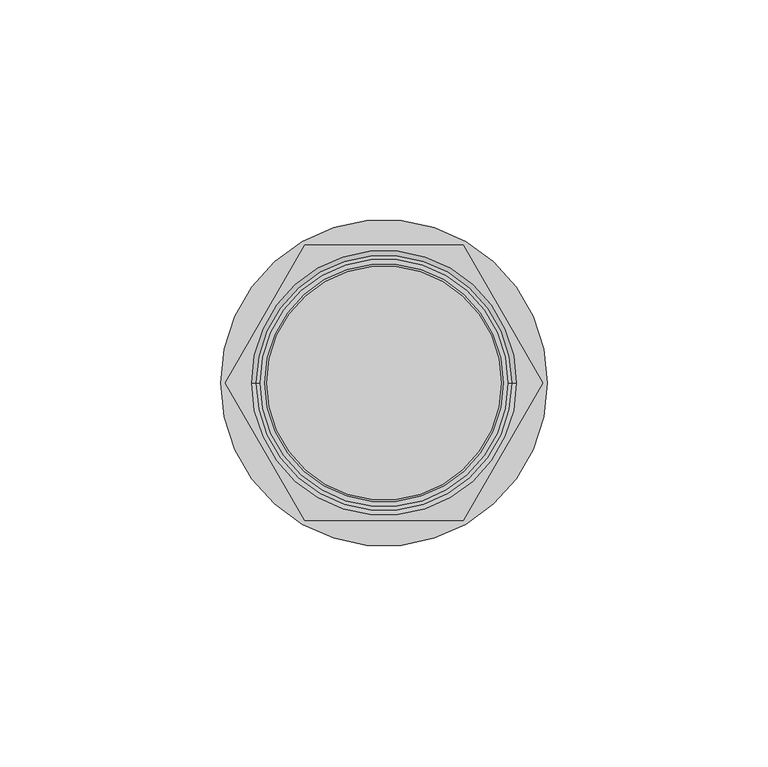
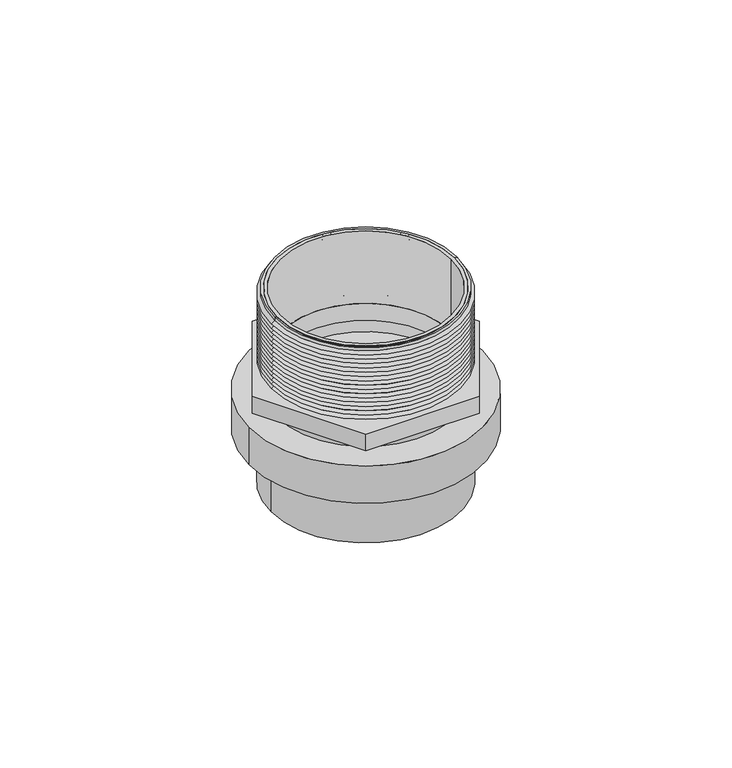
"""IFC4 building model written with IfcOpenShell, lengths in millimetres: valve geometry, Adaptador Macho con Ins Metalico_Lubrizol_CPVC_FlowGuard_MX 50mm : Adaptador Macho con Ins Metalico_Lubrizol_CPVC_FlowGuard_MX 50mm."""

import ifcopenshell
import ifcopenshell.guid

model = None  # the IFC model being written
_history = None  # IfcOwnerHistory: only IFC2X3 demands one
_inside = {}  # id of a spatial element -> (the spatial element, [elements in it])
_under = {}  # id of a project, library or spatial element -> (it, [spatial elements below it])
_declared = {}  # id of a project -> (the project, [libraries it declares])
_typed = {}  # id of a type object -> (the type object, [elements of that type])
_made_of = {}  # id of a material, layer set ... -> (it, [elements and type objects made of it])


def new_model(schema):
    """Start an empty IFC model of exactly this schema.

    Asked for "IFC4X3", IfcOpenShell would pick the latest addendum, in which some entities
    have other attributes; the version numbers below select the first issue.
    IFC2X3 requires an IfcOwnerHistory on every rooted entity: one is made here for all.
    """
    global model, _history
    if schema == "IFC4X3":
        model = ifcopenshell.file(schema_version=(4, 3, 0, 0))
    else:
        model = ifcopenshell.file(schema=schema)
    _inside.clear()
    _under.clear()
    _declared.clear()
    _typed.clear()
    _made_of.clear()
    _history = None
    if model.schema == "IFC2X3":
        org = make("IfcOrganization", Name="unknown")
        user = make(
            "IfcPersonAndOrganization",
            ThePerson=make("IfcPerson", FamilyName="unknown"),
            TheOrganization=org,
        )
        app = make(
            "IfcApplication",
            ApplicationDeveloper=org,
            Version="unknown",
            ApplicationFullName="unknown",
            ApplicationIdentifier="unknown",
        )
        _history = make(
            "IfcOwnerHistory",
            OwningUser=user,
            OwningApplication=app,
            ChangeAction="ADDED",
            CreationDate=0,
        )
    return model


def make(cls, **values):
    """One entity of the class cls with the attributes given. An attribute that is None is left unset."""
    return model.create_entity(
        cls, **{name: value for name, value in values.items() if value is not None}
    )


def rooted(cls, **values):
    """An entity with a GlobalId (a new one), such as an element, a storey or a relation."""
    return make(cls, GlobalId=ifcopenshell.guid.new(), OwnerHistory=_history, **values)


def si_unit(unit_type, name, prefix=None):
    """IfcSIUnit, for example si_unit("LENGTHUNIT", "METRE", prefix="MILLI")."""
    return make("IfcSIUnit", UnitType=unit_type, Prefix=prefix, Name=name)


def assignment(units):
    """IfcUnitAssignment: the units of a project."""
    return None if units is None else make("IfcUnitAssignment", Units=units)


def point(xyz):
    """IfcCartesianPoint."""
    return None if xyz is None else make("IfcCartesianPoint", Coordinates=xyz)


def direction(xyz):
    """IfcDirection."""
    return None if xyz is None else make("IfcDirection", DirectionRatios=xyz)


def frame(location, z_axis=None, x_axis=None):
    """IfcAxis2Placement3D, a coordinate frame: its origin and axes. An axis left out is left unset."""
    return make(
        "IfcAxis2Placement3D",
        Location=point(location),
        Axis=direction(z_axis),
        RefDirection=direction(x_axis),
    )


def frame_2d(location, x_axis=None):
    """IfcAxis2Placement2D, a coordinate frame in the plane: its origin and x axis."""
    return make(
        "IfcAxis2Placement2D", Location=point(location), RefDirection=direction(x_axis)
    )


def origin():
    """The frame at (0, 0, 0) with its axes left unset."""
    return frame((0.0, 0.0, 0.0))


def origin_with_axes():
    """The frame at (0, 0, 0) with the z axis (0, 0, 1) and the x axis (1, 0, 0) written out."""
    return frame((0.0, 0.0, 0.0), z_axis=(0.0, 0.0, 1.0), x_axis=(1.0, 0.0, 0.0))


def origin_2d():
    """The frame at (0, 0) in the plane with its x axis left unset."""
    return frame_2d((0.0, 0.0))


def place(relative_to, where):
    """IfcLocalPlacement: puts the frame where relative to a parent placement (None: the world)."""
    return make(
        "IfcLocalPlacement", PlacementRelTo=relative_to, RelativePlacement=where
    )


def context(
    kind, dimensions, precision=None, world=None, true_north=None, identifier=None
):
    """IfcGeometricRepresentationContext, for example the 3D "Model" context."""
    return make(
        "IfcGeometricRepresentationContext",
        ContextIdentifier=identifier,
        ContextType=kind,
        CoordinateSpaceDimension=dimensions,
        Precision=precision,
        WorldCoordinateSystem=world,
        TrueNorth=true_north,
    )


def project(units=None, contexts=None):
    """IfcProject with its units and contexts."""
    return rooted(
        "IfcProject",
        Name="project",
        RepresentationContexts=contexts,
        UnitsInContext=assignment(units),
    )


def spatial(cls, under=None, at=None, **own):
    """A site, building, storey or space (cls), placed at a placement, below another one or the project."""
    s = rooted(cls, ObjectPlacement=at, **own)
    if under is not None:
        _under.setdefault(under.id(), (under, []))[1].append(s)
    return s


def polyline(points):
    """IfcPolyline through the points."""
    return make("IfcPolyline", Points=[point(p) for p in points])


def circle_curve(where, radius):
    """IfcCircle in the frame where."""
    return make("IfcCircle", Position=where, Radius=radius)


def trimmed(basis, trim1, trim2, sense, master):
    """IfcTrimmedCurve: the piece of a basis curve between two trims."""
    return make(
        "IfcTrimmedCurve",
        BasisCurve=basis,
        Trim1=trim1,
        Trim2=trim2,
        SenseAgreement=sense,
        MasterRepresentation=master,
    )


def segment(curve, same_sense, transition):
    """IfcCompositeCurveSegment."""
    return make(
        "IfcCompositeCurveSegment",
        Transition=transition,
        SameSense=same_sense,
        ParentCurve=curve,
    )


def composite_curve(segments, self_intersect=None):
    """IfcCompositeCurve: segments joined end to end."""
    return make("IfcCompositeCurve", Segments=segments, SelfIntersect=self_intersect)


def outline(outer, holes=None, kind="AREA"):
    """IfcArbitraryClosedProfileDef: a profile drawn as a closed curve; with holes, ...WithVoids."""
    if holes is None:
        return make("IfcArbitraryClosedProfileDef", ProfileType=kind, OuterCurve=outer)
    return make(
        "IfcArbitraryProfileDefWithVoids",
        ProfileType=kind,
        OuterCurve=outer,
        InnerCurves=holes,
    )


def extrude(swept, where, along, depth):
    """IfcExtrudedAreaSolid: the profile swept, set in the frame where, extruded along a direction by depth."""
    return make(
        "IfcExtrudedAreaSolid",
        SweptArea=swept,
        Position=where,
        ExtrudedDirection=direction(along),
        Depth=depth,
    )


def shape(context_of_items, identifier, shape_type, items):
    """IfcShapeRepresentation: the items that make up one representation, for example the "Body"."""
    return make(
        "IfcShapeRepresentation",
        ContextOfItems=context_of_items,
        RepresentationIdentifier=identifier,
        RepresentationType=shape_type,
        Items=items,
    )


def source(mapping_origin, context_of_items, identifier, shape_type, items):
    """IfcRepresentationMap: a shape defined once, which mapped items show again and again."""
    return make(
        "IfcRepresentationMap",
        MappingOrigin=mapping_origin,
        MappedRepresentation=shape(context_of_items, identifier, shape_type, items),
    )


def transform(
    local_origin,
    x_axis=None,
    y_axis=None,
    z_axis=None,
    scale=None,
    scale2=None,
    scale3=None,
    uniform=True,
):
    """IfcCartesianTransformationOperator3D, or its non-uniform kind. x_axis, y_axis, z_axis: its Axis1, 2, 3."""
    if uniform:
        return make(
            "IfcCartesianTransformationOperator3D",
            Axis1=direction(x_axis),
            Axis2=direction(y_axis),
            LocalOrigin=point(local_origin),
            Scale=scale,
            Axis3=direction(z_axis),
        )
    return make(
        "IfcCartesianTransformationOperator3DnonUniform",
        Axis1=direction(x_axis),
        Axis2=direction(y_axis),
        LocalOrigin=point(local_origin),
        Scale=scale,
        Axis3=direction(z_axis),
        Scale2=scale2,
        Scale3=scale3,
    )


def mapped(mapping_source, mapping_target):
    """IfcMappedItem: shows the shape of a source again, moved by a transform."""
    return make(
        "IfcMappedItem", MappingSource=mapping_source, MappingTarget=mapping_target
    )


def made_of(thing, what):
    """Note that an element or type object is made of a material, layer set ...; save() writes the relation."""
    if what is not None:
        _made_of.setdefault(what.id(), (what, []))[1].append(thing)
    return thing


def element(
    cls,
    number,
    at=None,
    inside=None,
    cuts=None,
    type_object=None,
    material=None,
    context=None,
    identifier="Body",
    shape_type=None,
    held_by="IfcProductDefinitionShape",
    body=None,
    shapes=None,
    **own,
):
    """One element of the class cls, such as IfcWall. Its Tag is "e" and its number.

    at: its placement. inside: the storey or other place that contains it. cuts: it is an
    opening in that element (IfcRelVoidsElement). A single representation is given by context,
    identifier, shape_type and body (its items); several are given by shapes. held_by: the class
    of the entity that holds the representations. save() writes the other relations.
    """
    e = rooted(cls, Tag="e%d" % number, ObjectPlacement=at, **own)
    if body is not None:
        shapes = [shape(context, identifier, shape_type, body)]
    if shapes is not None:
        e.Representation = make(held_by, Representations=shapes)
    if inside is not None:
        _inside.setdefault(inside.id(), (inside, []))[1].append(e)
    if cuts is not None:
        rooted(
            "IfcRelVoidsElement", RelatingBuildingElement=cuts, RelatedOpeningElement=e
        )
    if type_object is not None:
        _typed.setdefault(type_object.id(), (type_object, []))[1].append(e)
    return made_of(e, material)


def aggregate(whole, parts):
    """IfcRelAggregates: a whole, such as a stair, and the parts it consists of."""
    return rooted("IfcRelAggregates", RelatingObject=whole, RelatedObjects=parts)


def save(model, path):
    """Write the relations noted so far, then the file.

    IfcRelAggregates (storeys below a building ...), IfcRelContainedInSpatialStructure (elements
    in a storey), IfcRelDefinesByType, IfcRelAssociatesMaterial and IfcRelDeclares: one each for
    every whole, place, type object, material and project.
    """
    for whole, parts in _under.values():
        aggregate(whole, parts)
    for where, things in _inside.values():
        rooted(
            "IfcRelContainedInSpatialStructure",
            RelatedElements=things,
            RelatingStructure=where,
        )
    for kind, things in _typed.values():
        rooted("IfcRelDefinesByType", RelatedObjects=things, RelatingType=kind)
    for what, things in _made_of.values():
        rooted("IfcRelAssociatesMaterial", RelatedObjects=things, RelatingMaterial=what)
    for by, libraries in _declared.values():
        rooted("IfcRelDeclares", RelatingContext=by, RelatedDefinitions=libraries)
    model.write(path)


def plane_surface(at):
    """IfcPlane: the flat surface through the origin of the frame at, square to its z axis."""
    return make("IfcPlane", Position=at)


def cylinder_surface(at, radius):
    """IfcCylindricalSurface: all points at the distance radius from the z axis of the frame at."""
    return make("IfcCylindricalSurface", Position=at, Radius=radius)


def revolved_surface(curve, axis_point, axis_direction):
    """IfcSurfaceOfRevolution: the curve turned about the line through axis_point along axis_direction."""
    return make(
        "IfcSurfaceOfRevolution",
        SweptCurve=make("IfcArbitraryOpenProfileDef", ProfileType="CURVE", Curve=curve),
        AxisPosition=make("IfcAxis1Placement", Location=point(axis_point), Axis=direction(axis_direction)),
    )


def advanced_brep(points, edges, surfaces, faces):
    """IfcAdvancedBrep: a solid bounded by faces that lie on surfaces and meet in shared edges.

    An edge is (start, end): straight between two places in points (the first is 0);
    or (start, end, curve); or (start, end, curve, False) where it runs against its curve.
    A face is (place in surfaces, loops), or (place, loops, False) where it looks against
    its surface's normal. A loop lists edges by number (the first is 1), with a minus sign
    where the edge is run from its end to its start. The first loop is the outer one.
    """
    corners = [point(p) for p in points]
    vertices = [make("IfcVertexPoint", VertexGeometry=c) for c in corners]
    made = []
    for start, end, *more in edges:
        made.append(
            make(
                "IfcEdgeCurve",
                EdgeStart=vertices[start],
                EdgeEnd=vertices[end],
                EdgeGeometry=more[0] if more else make("IfcPolyline", Points=[corners[start], corners[end]]),
                SameSense=more[1] if len(more) > 1 else True,
            )
        )
    hull = []
    for where, loops, *sense in faces:
        bounds = []
        for j, loop in enumerate(loops):
            ring = [make("IfcOrientedEdge", EdgeElement=made[abs(k) - 1], Orientation=k > 0) for k in loop]
            bounds.append(
                make(
                    "IfcFaceOuterBound" if j == 0 else "IfcFaceBound",
                    Bound=make("IfcEdgeLoop", EdgeList=ring),
                    Orientation=True,
                )
            )
        hull.append(make("IfcAdvancedFace", Bounds=bounds, FaceSurface=surfaces[where], SameSense=sense[0] if sense else True))
    return make("IfcAdvancedBrep", Outer=make("IfcClosedShell", CfsFaces=hull))


def valve_88e978f3(model_context):
    return source(origin(), model_context, "Body", "SolidModel", [
        extrude(outline(composite_curve([segment(trimmed(circle_curve(origin_2d(), 37.0), [point((-37.0, 0.0))], [point((37.0, 0.0))], False, "CARTESIAN"), True, "CONTINUOUS"), segment(trimmed(circle_curve(origin_2d(), 37.0), [point((37.0, 0.0))], [point((-37.0, 0.0))], False, "CARTESIAN"), True, "CONTINUOUS")], self_intersect=False)), frame((0.0, 0.0, 18.1813089), z_axis=(0.0, 0.0, 1.0), x_axis=(1.0, 0.0, 0.0)), (0.0, 0.0, 1.0), 12.5011518),
        extrude(outline(composite_curve([segment(trimmed(circle_curve(origin_2d(), 28.0854831), [point((-28.0854831, 0.0))], [point((28.0854831, 0.0))], False, "CARTESIAN"), True, "CONTINUOUS"), segment(trimmed(circle_curve(origin_2d(), 28.0854831), [point((28.0854831, 0.0))], [point((-28.0854831, 0.0))], False, "CARTESIAN"), True, "CONTINUOUS")], self_intersect=False), holes=[composite_curve([segment(trimmed(circle_curve(origin_2d(), 27.0), [point((-27.0, 0.0))], [point((27.0, 0.0))], True, "CARTESIAN"), True, "CONTINUOUS"), segment(trimmed(circle_curve(origin_2d(), 27.0), [point((27.0, 0.0))], [point((-27.0, 0.0))], True, "CARTESIAN"), True, "CONTINUOUS")], self_intersect=False)]), frame((0.0, 0.0, 30.6824606), z_axis=(0.0, 0.0, 1.0), x_axis=(1.0, 0.0, 0.0)), (0.0, 0.0, 1.0), 34.0473381),
        extrude(outline(polyline([(-18.0055192, -31.1864741), (-36.0110385, 0.0), (-18.0055192, 31.1864741), (18.0055192, 31.1864741), (36.0110385, 0.0), (18.0055192, -31.1864741), (-18.0055192, -31.1864741)]), holes=[composite_curve([segment(trimmed(circle_curve(origin_2d(), 26.5398145), [point((-26.5398145, 0.0))], [point((26.5398145, 0.0))], True, "CARTESIAN"), True, "CONTINUOUS"), segment(trimmed(circle_curve(origin_2d(), 26.5398145), [point((26.5398145, 0.0))], [point((-26.5398145, 0.0))], True, "CARTESIAN"), True, "CONTINUOUS")], self_intersect=False)]), frame((0.0, 0.0, 35.1069028), z_axis=(0.0, 0.0, 1.0), x_axis=(1.0, 0.0, 0.0)), (0.0, 0.0, 1.0), 5.6405916),
        advanced_brep(
        [(28.9362873, 0.0, 63.7387271), (-28.9362873, 0.0, 63.7387271), (-28.9362873, 0.0, 64.7297988), (28.9362873, 0.0, 64.7297988), (30.0, 0.0, 62.9939075), (-30.0, 0.0, 62.9939075), (28.9657757, 0.0, 62.2697359), (-28.9657757, 0.0, 62.2697359), (30.0, 0.0, 61.5455643), (-30.0, 0.0, 61.5455643), (28.9657757, 0.0, 60.8213926), (-28.9657757, 0.0, 60.8213926), (30.0, 0.0, 60.097221), (-30.0, 0.0, 60.097221), (28.9657757, 0.0, 59.3730494), (-28.9657757, 0.0, 59.3730494), (30.0, 0.0, 58.6488778), (-30.0, 0.0, 58.6488778), (28.9657757, 0.0, 57.9247062), (-28.9657757, 0.0, 57.9247062), (30.0, 0.0, 57.2005345), (-30.0, 0.0, 57.2005345), (28.9657757, 0.0, 56.4763629), (-28.9657757, 0.0, 56.4763629), (30.0, 0.0, 55.7521913), (-30.0, 0.0, 55.7521913), (28.9657757, 0.0, 55.0280197), (-28.9657757, 0.0, 55.0280197), (30.0, 0.0, 54.303848), (-30.0, 0.0, 54.303848), (28.9657757, 0.0, 53.5796764), (-28.9657757, 0.0, 53.5796764), (30.0, 0.0, 52.8555048), (-30.0, 0.0, 52.8555048), (28.9657757, 0.0, 52.1313332), (-28.9657757, 0.0, 52.1313332), (30.0, 0.0, 51.4071616), (-30.0, 0.0, 51.4071616), (28.9992007, 0.0, 50.7063943), (-28.9992007, 0.0, 50.7063943), (30.0, 0.0, 50.0056271), (-30.0, 0.0, 50.0056271), (28.9992007, 0.0, 49.3048599), (-28.9992007, 0.0, 49.3048599), (30.0, 0.0, 48.6040927), (-30.0, 0.0, 48.6040927), (28.9323508, 0.0, 47.8565167), (-28.9323508, 0.0, 47.8565167), (30.0, 0.0, 47.1089406), (-30.0, 0.0, 47.1089406), (28.9992007, 0.0, 46.4081734), (-28.9992007, 0.0, 46.4081734), (30.0, 0.0, 45.7074062), (-30.0, 0.0, 45.7074062), (28.9992007, 0.0, 45.006639), (-28.9992007, 0.0, 45.006639), (30.0, 0.0, 44.3058718), (-30.0, 0.0, 44.3058718), (28.9323508, 0.0, 43.5582958), (-28.9323508, 0.0, 43.5582958), (30.0, 0.0, 42.8107197), (-30.0, 0.0, 42.8107197), (28.9992007, 0.0, 42.1099525), (-28.9992007, 0.0, 42.1099525), (30.0, 0.0, 41.4091853), (-30.0, 0.0, 41.4091853), (29.0550075, 0.0, 40.7474945), (-29.0550075, 0.0, 40.7474945), (28.0854831, 0.0, 40.7474945), (-28.0854831, 0.0, 40.7474945), (28.0854831, 0.0, 64.7297988), (-28.0854831, 0.0, 64.7297988)],
        [
            (0, 1, circle_curve(frame((0.0, 0.0, 63.7387271), z_axis=(0.0, 0.0, 1.0), x_axis=(-1.0, 0.0, 0.0)), 28.9362873)),
            (1, 2),
            (2, 3, circle_curve(frame((0.0, 0.0, 64.7297988), z_axis=(0.0, 0.0, -1.0), x_axis=(-1.0, 0.0, 0.0)), 28.9362873)),
            (3, 0),
            (1, 0, circle_curve(frame((0.0, 0.0, 63.7387271), z_axis=(0.0, 0.0, 1.0), x_axis=(-1.0, 0.0, 0.0)), 28.9362873)),
            (3, 2, circle_curve(frame((0.0, 0.0, 64.7297988), z_axis=(0.0, 0.0, -1.0), x_axis=(-1.0, 0.0, 0.0)), 28.9362873)),
            (4, 5, circle_curve(frame((0.0, 0.0, 62.9939075), z_axis=(0.0, 0.0, 1.0), x_axis=(-1.0, 0.0, 0.0)), 30.0)),
            (5, 1),
            (0, 4),
            (5, 4, circle_curve(frame((0.0, 0.0, 62.9939075), z_axis=(0.0, 0.0, 1.0), x_axis=(-1.0, 0.0, 0.0)), 30.0)),
            (6, 7, circle_curve(frame((0.0, 0.0, 62.2697359), z_axis=(0.0, 0.0, 1.0), x_axis=(-1.0, 0.0, 0.0)), 28.9657757)),
            (7, 5),
            (4, 6),
            (7, 6, circle_curve(frame((0.0, 0.0, 62.2697359), z_axis=(0.0, 0.0, 1.0), x_axis=(-1.0, 0.0, 0.0)), 28.9657757)),
            (8, 9, circle_curve(frame((0.0, 0.0, 61.5455643), z_axis=(0.0, 0.0, 1.0), x_axis=(-1.0, 0.0, 0.0)), 30.0)),
            (9, 7),
            (6, 8),
            (9, 8, circle_curve(frame((0.0, 0.0, 61.5455643), z_axis=(0.0, 0.0, 1.0), x_axis=(-1.0, 0.0, 0.0)), 30.0)),
            (10, 11, circle_curve(frame((0.0, 0.0, 60.8213926), z_axis=(0.0, 0.0, 1.0), x_axis=(-1.0, 0.0, 0.0)), 28.9657757)),
            (11, 9),
            (8, 10),
            (11, 10, circle_curve(frame((0.0, 0.0, 60.8213926), z_axis=(0.0, 0.0, 1.0), x_axis=(-1.0, 0.0, 0.0)), 28.9657757)),
            (12, 13, circle_curve(frame((0.0, 0.0, 60.097221), z_axis=(0.0, 0.0, 1.0), x_axis=(-1.0, 0.0, 0.0)), 30.0)),
            (13, 11),
            (10, 12),
            (13, 12, circle_curve(frame((0.0, 0.0, 60.097221), z_axis=(0.0, 0.0, 1.0), x_axis=(-1.0, 0.0, 0.0)), 30.0)),
            (14, 15, circle_curve(frame((0.0, 0.0, 59.3730494), z_axis=(0.0, 0.0, 1.0), x_axis=(-1.0, 0.0, 0.0)), 28.9657757)),
            (15, 13),
            (12, 14),
            (15, 14, circle_curve(frame((0.0, 0.0, 59.3730494), z_axis=(0.0, 0.0, 1.0), x_axis=(-1.0, 0.0, 0.0)), 28.9657757)),
            (16, 17, circle_curve(frame((0.0, 0.0, 58.6488778), z_axis=(0.0, 0.0, 1.0), x_axis=(-1.0, 0.0, 0.0)), 30.0)),
            (17, 15),
            (14, 16),
            (17, 16, circle_curve(frame((0.0, 0.0, 58.6488778), z_axis=(0.0, 0.0, 1.0), x_axis=(-1.0, 0.0, 0.0)), 30.0)),
            (18, 19, circle_curve(frame((0.0, 0.0, 57.9247062), z_axis=(0.0, 0.0, 1.0), x_axis=(-1.0, 0.0, 0.0)), 28.9657757)),
            (19, 17),
            (16, 18),
            (19, 18, circle_curve(frame((0.0, 0.0, 57.9247062), z_axis=(0.0, 0.0, 1.0), x_axis=(-1.0, 0.0, 0.0)), 28.9657757)),
            (20, 21, circle_curve(frame((0.0, 0.0, 57.2005345), z_axis=(0.0, 0.0, 1.0), x_axis=(-1.0, 0.0, 0.0)), 30.0)),
            (21, 19),
            (18, 20),
            (21, 20, circle_curve(frame((0.0, 0.0, 57.2005345), z_axis=(0.0, 0.0, 1.0), x_axis=(-1.0, 0.0, 0.0)), 30.0)),
            (22, 23, circle_curve(frame((0.0, 0.0, 56.4763629), z_axis=(0.0, 0.0, 1.0), x_axis=(-1.0, 0.0, 0.0)), 28.9657757)),
            (23, 21),
            (20, 22),
            (23, 22, circle_curve(frame((0.0, 0.0, 56.4763629), z_axis=(0.0, 0.0, 1.0), x_axis=(-1.0, 0.0, 0.0)), 28.9657757)),
            (24, 25, circle_curve(frame((0.0, 0.0, 55.7521913), z_axis=(0.0, 0.0, 1.0), x_axis=(-1.0, 0.0, 0.0)), 30.0)),
            (25, 23),
            (22, 24),
            (25, 24, circle_curve(frame((0.0, 0.0, 55.7521913), z_axis=(0.0, 0.0, 1.0), x_axis=(-1.0, 0.0, 0.0)), 30.0)),
            (26, 27, circle_curve(frame((0.0, 0.0, 55.0280197), z_axis=(0.0, 0.0, 1.0), x_axis=(-1.0, 0.0, 0.0)), 28.9657757)),
            (27, 25),
            (24, 26),
            (27, 26, circle_curve(frame((0.0, 0.0, 55.0280197), z_axis=(0.0, 0.0, 1.0), x_axis=(-1.0, 0.0, 0.0)), 28.9657757)),
            (28, 29, circle_curve(frame((0.0, 0.0, 54.303848), z_axis=(0.0, 0.0, 1.0), x_axis=(-1.0, 0.0, 0.0)), 30.0)),
            (29, 27),
            (26, 28),
            (29, 28, circle_curve(frame((0.0, 0.0, 54.303848), z_axis=(0.0, 0.0, 1.0), x_axis=(-1.0, 0.0, 0.0)), 30.0)),
            (30, 31, circle_curve(frame((0.0, 0.0, 53.5796764), z_axis=(0.0, 0.0, 1.0), x_axis=(-1.0, 0.0, 0.0)), 28.9657757)),
            (31, 29),
            (28, 30),
            (31, 30, circle_curve(frame((0.0, 0.0, 53.5796764), z_axis=(0.0, 0.0, 1.0), x_axis=(-1.0, 0.0, 0.0)), 28.9657757)),
            (32, 33, circle_curve(frame((0.0, 0.0, 52.8555048), z_axis=(0.0, 0.0, 1.0), x_axis=(-1.0, 0.0, 0.0)), 30.0)),
            (33, 31),
            (30, 32),
            (33, 32, circle_curve(frame((0.0, 0.0, 52.8555048), z_axis=(0.0, 0.0, 1.0), x_axis=(-1.0, 0.0, 0.0)), 30.0)),
            (34, 35, circle_curve(frame((0.0, 0.0, 52.1313332), z_axis=(0.0, 0.0, 1.0), x_axis=(-1.0, 0.0, 0.0)), 28.9657757)),
            (35, 33),
            (32, 34),
            (35, 34, circle_curve(frame((0.0, 0.0, 52.1313332), z_axis=(0.0, 0.0, 1.0), x_axis=(-1.0, 0.0, 0.0)), 28.9657757)),
            (36, 37, circle_curve(frame((0.0, 0.0, 51.4071616), z_axis=(0.0, 0.0, 1.0), x_axis=(-1.0, 0.0, 0.0)), 30.0)),
            (37, 35),
            (34, 36),
            (37, 36, circle_curve(frame((0.0, 0.0, 51.4071616), z_axis=(0.0, 0.0, 1.0), x_axis=(-1.0, 0.0, 0.0)), 30.0)),
            (38, 39, circle_curve(frame((0.0, 0.0, 50.7063943), z_axis=(0.0, 0.0, 1.0), x_axis=(-1.0, 0.0, 0.0)), 28.9992007)),
            (39, 37),
            (36, 38),
            (39, 38, circle_curve(frame((0.0, 0.0, 50.7063943), z_axis=(0.0, 0.0, 1.0), x_axis=(-1.0, 0.0, 0.0)), 28.9992007)),
            (40, 41, circle_curve(frame((0.0, 0.0, 50.0056271), z_axis=(0.0, 0.0, 1.0), x_axis=(-1.0, 0.0, 0.0)), 30.0)),
            (41, 39),
            (38, 40),
            (41, 40, circle_curve(frame((0.0, 0.0, 50.0056271), z_axis=(0.0, 0.0, 1.0), x_axis=(-1.0, 0.0, 0.0)), 30.0)),
            (42, 43, circle_curve(frame((0.0, 0.0, 49.3048599), z_axis=(0.0, 0.0, 1.0), x_axis=(-1.0, 0.0, 0.0)), 28.9992007)),
            (43, 41),
            (40, 42),
            (43, 42, circle_curve(frame((0.0, 0.0, 49.3048599), z_axis=(0.0, 0.0, 1.0), x_axis=(-1.0, 0.0, 0.0)), 28.9992007)),
            (44, 45, circle_curve(frame((0.0, 0.0, 48.6040927), z_axis=(0.0, 0.0, 1.0), x_axis=(-1.0, 0.0, 0.0)), 30.0)),
            (45, 43),
            (42, 44),
            (45, 44, circle_curve(frame((0.0, 0.0, 48.6040927), z_axis=(0.0, 0.0, 1.0), x_axis=(-1.0, 0.0, 0.0)), 30.0)),
            (46, 47, circle_curve(frame((0.0, 0.0, 47.8565167), z_axis=(0.0, 0.0, 1.0), x_axis=(-1.0, 0.0, 0.0)), 28.9323508)),
            (47, 45),
            (44, 46),
            (47, 46, circle_curve(frame((0.0, 0.0, 47.8565167), z_axis=(0.0, 0.0, 1.0), x_axis=(-1.0, 0.0, 0.0)), 28.9323508)),
            (48, 49, circle_curve(frame((0.0, 0.0, 47.1089406), z_axis=(0.0, 0.0, 1.0), x_axis=(-1.0, 0.0, 0.0)), 30.0)),
            (49, 47),
            (46, 48),
            (49, 48, circle_curve(frame((0.0, 0.0, 47.1089406), z_axis=(0.0, 0.0, 1.0), x_axis=(-1.0, 0.0, 0.0)), 30.0)),
            (50, 51, circle_curve(frame((0.0, 0.0, 46.4081734), z_axis=(0.0, 0.0, 1.0), x_axis=(-1.0, 0.0, 0.0)), 28.9992007)),
            (51, 49),
            (48, 50),
            (51, 50, circle_curve(frame((0.0, 0.0, 46.4081734), z_axis=(0.0, 0.0, 1.0), x_axis=(-1.0, 0.0, 0.0)), 28.9992007)),
            (52, 53, circle_curve(frame((0.0, 0.0, 45.7074062), z_axis=(0.0, 0.0, 1.0), x_axis=(-1.0, 0.0, 0.0)), 30.0)),
            (53, 51),
            (50, 52),
            (53, 52, circle_curve(frame((0.0, 0.0, 45.7074062), z_axis=(0.0, 0.0, 1.0), x_axis=(-1.0, 0.0, 0.0)), 30.0)),
            (54, 55, circle_curve(frame((0.0, 0.0, 45.006639), z_axis=(0.0, 0.0, 1.0), x_axis=(-1.0, 0.0, 0.0)), 28.9992007)),
            (55, 53),
            (52, 54),
            (55, 54, circle_curve(frame((0.0, 0.0, 45.006639), z_axis=(0.0, 0.0, 1.0), x_axis=(-1.0, 0.0, 0.0)), 28.9992007)),
            (56, 57, circle_curve(frame((0.0, 0.0, 44.3058718), z_axis=(0.0, 0.0, 1.0), x_axis=(-1.0, 0.0, 0.0)), 30.0)),
            (57, 55),
            (54, 56),
            (57, 56, circle_curve(frame((0.0, 0.0, 44.3058718), z_axis=(0.0, 0.0, 1.0), x_axis=(-1.0, 0.0, 0.0)), 30.0)),
            (58, 59, circle_curve(frame((0.0, 0.0, 43.5582958), z_axis=(0.0, 0.0, 1.0), x_axis=(-1.0, 0.0, 0.0)), 28.9323508)),
            (59, 57),
            (56, 58),
            (59, 58, circle_curve(frame((0.0, 0.0, 43.5582958), z_axis=(0.0, 0.0, 1.0), x_axis=(-1.0, 0.0, 0.0)), 28.9323508)),
            (60, 61, circle_curve(frame((0.0, 0.0, 42.8107197), z_axis=(0.0, 0.0, 1.0), x_axis=(-1.0, 0.0, 0.0)), 30.0)),
            (61, 59),
            (58, 60),
            (61, 60, circle_curve(frame((0.0, 0.0, 42.8107197), z_axis=(0.0, 0.0, 1.0), x_axis=(-1.0, 0.0, 0.0)), 30.0)),
            (62, 63, circle_curve(frame((0.0, 0.0, 42.1099525), z_axis=(0.0, 0.0, 1.0), x_axis=(-1.0, 0.0, 0.0)), 28.9992007)),
            (63, 61),
            (60, 62),
            (63, 62, circle_curve(frame((0.0, 0.0, 42.1099525), z_axis=(0.0, 0.0, 1.0), x_axis=(-1.0, 0.0, 0.0)), 28.9992007)),
            (64, 65, circle_curve(frame((0.0, 0.0, 41.4091853), z_axis=(0.0, 0.0, 1.0), x_axis=(-1.0, 0.0, 0.0)), 30.0)),
            (65, 63),
            (62, 64),
            (65, 64, circle_curve(frame((0.0, 0.0, 41.4091853), z_axis=(0.0, 0.0, 1.0), x_axis=(-1.0, 0.0, 0.0)), 30.0)),
            (66, 67, circle_curve(frame((0.0, 0.0, 40.7474945), z_axis=(0.0, 0.0, 1.0), x_axis=(-1.0, 0.0, 0.0)), 29.0550075)),
            (67, 65),
            (64, 66),
            (67, 66, circle_curve(frame((0.0, 0.0, 40.7474945), z_axis=(0.0, 0.0, 1.0), x_axis=(-1.0, 0.0, 0.0)), 29.0550075)),
            (68, 69, circle_curve(frame((0.0, 0.0, 40.7474945), z_axis=(0.0, 0.0, 1.0), x_axis=(-1.0, 0.0, 0.0)), 28.0854831)),
            (69, 67),
            (66, 68),
            (69, 68, circle_curve(frame((0.0, 0.0, 40.7474945), z_axis=(0.0, 0.0, 1.0), x_axis=(-1.0, 0.0, 0.0)), 28.0854831)),
            (70, 71, circle_curve(frame((0.0, 0.0, 64.7297988), z_axis=(0.0, 0.0, 1.0), x_axis=(-1.0, 0.0, 0.0)), 28.0854831)),
            (71, 69),
            (68, 70),
            (71, 70, circle_curve(frame((0.0, 0.0, 64.7297988), z_axis=(0.0, 0.0, 1.0), x_axis=(-1.0, 0.0, 0.0)), 28.0854831)),
            (2, 71),
            (70, 3),
        ],
        [
            cylinder_surface(frame((0.0, 0.0, 59.488787), z_axis=(0.0, 0.0, -1.0), x_axis=(-1.0, 0.0, 0.0)), 28.9362873),
            revolved_surface(polyline([(-28.9362873, 0.0, 63.7387271), (-30.0, 0.0, 62.9939075)]), (0.0, 0.0, 59.488787), (0.0, 0.0, -1.0)),
            revolved_surface(polyline([(-30.0, 0.0, 62.9939075), (-28.9657757, 0.0, 62.2697359)]), (0.0, 0.0, 59.488787), (0.0, 0.0, -1.0)),
            revolved_surface(polyline([(-28.9657757, 0.0, 62.2697359), (-30.0, 0.0, 61.5455643)]), (0.0, 0.0, 59.488787), (0.0, 0.0, -1.0)),
            revolved_surface(polyline([(-30.0, 0.0, 61.5455643), (-28.9657757, 0.0, 60.8213926)]), (0.0, 0.0, 59.488787), (0.0, 0.0, -1.0)),
            revolved_surface(polyline([(-28.9657757, 0.0, 60.8213926), (-30.0, 0.0, 60.097221)]), (0.0, 0.0, 59.488787), (0.0, 0.0, -1.0)),
            revolved_surface(polyline([(-30.0, 0.0, 60.097221), (-28.9657757, 0.0, 59.3730494)]), (0.0, 0.0, 59.488787), (0.0, 0.0, -1.0)),
            revolved_surface(polyline([(-28.9657757, 0.0, 59.3730494), (-30.0, 0.0, 58.6488778)]), (0.0, 0.0, 59.488787), (0.0, 0.0, -1.0)),
            revolved_surface(polyline([(-30.0, 0.0, 58.6488778), (-28.9657757, 0.0, 57.9247062)]), (0.0, 0.0, 59.488787), (0.0, 0.0, -1.0)),
            revolved_surface(polyline([(-28.9657757, 0.0, 57.9247062), (-30.0, 0.0, 57.2005345)]), (0.0, 0.0, 59.488787), (0.0, 0.0, -1.0)),
            revolved_surface(polyline([(-30.0, 0.0, 57.2005345), (-28.9657757, 0.0, 56.4763629)]), (0.0, 0.0, 59.488787), (0.0, 0.0, -1.0)),
            revolved_surface(polyline([(-28.9657757, 0.0, 56.4763629), (-30.0, 0.0, 55.7521913)]), (0.0, 0.0, 59.488787), (0.0, 0.0, -1.0)),
            revolved_surface(polyline([(-30.0, 0.0, 55.7521913), (-28.9657757, 0.0, 55.0280197)]), (0.0, 0.0, 59.488787), (0.0, 0.0, -1.0)),
            revolved_surface(polyline([(-28.9657757, 0.0, 55.0280197), (-30.0, 0.0, 54.303848)]), (0.0, 0.0, 59.488787), (0.0, 0.0, -1.0)),
            revolved_surface(polyline([(-30.0, 0.0, 54.303848), (-28.9657757, 0.0, 53.5796764)]), (0.0, 0.0, 59.488787), (0.0, 0.0, -1.0)),
            revolved_surface(polyline([(-28.9657757, 0.0, 53.5796764), (-30.0, 0.0, 52.8555048)]), (0.0, 0.0, 59.488787), (0.0, 0.0, -1.0)),
            revolved_surface(polyline([(-30.0, 0.0, 52.8555048), (-28.9657757, 0.0, 52.1313332)]), (0.0, 0.0, 59.488787), (0.0, 0.0, -1.0)),
            revolved_surface(polyline([(-28.9657757, 0.0, 52.1313332), (-30.0, 0.0, 51.4071616)]), (0.0, 0.0, 59.488787), (0.0, 0.0, -1.0)),
            revolved_surface(polyline([(-30.0, 0.0, 51.4071616), (-28.9992007, 0.0, 50.7063943)]), (0.0, 0.0, 59.488787), (0.0, 0.0, -1.0)),
            revolved_surface(polyline([(-28.9992007, 0.0, 50.7063943), (-30.0, 0.0, 50.0056271)]), (0.0, 0.0, 59.488787), (0.0, 0.0, -1.0)),
            revolved_surface(polyline([(-30.0, 0.0, 50.0056271), (-28.9992007, 0.0, 49.3048599)]), (0.0, 0.0, 59.488787), (0.0, 0.0, -1.0)),
            revolved_surface(polyline([(-28.9992007, 0.0, 49.3048599), (-30.0, 0.0, 48.6040927)]), (0.0, 0.0, 59.488787), (0.0, 0.0, -1.0)),
            revolved_surface(polyline([(-30.0, 0.0, 48.6040927), (-28.9323508, 0.0, 47.8565167)]), (0.0, 0.0, 59.488787), (0.0, 0.0, -1.0)),
            revolved_surface(polyline([(-28.9323508, 0.0, 47.8565167), (-30.0, 0.0, 47.1089406)]), (0.0, 0.0, 59.488787), (0.0, 0.0, -1.0)),
            revolved_surface(polyline([(-30.0, 0.0, 47.1089406), (-28.9992007, 0.0, 46.4081734)]), (0.0, 0.0, 59.488787), (0.0, 0.0, -1.0)),
            revolved_surface(polyline([(-28.9992007, 0.0, 46.4081734), (-30.0, 0.0, 45.7074062)]), (0.0, 0.0, 59.488787), (0.0, 0.0, -1.0)),
            revolved_surface(polyline([(-30.0, 0.0, 45.7074062), (-28.9992007, 0.0, 45.006639)]), (0.0, 0.0, 59.488787), (0.0, 0.0, -1.0)),
            revolved_surface(polyline([(-28.9992007, 0.0, 45.006639), (-30.0, 0.0, 44.3058718)]), (0.0, 0.0, 59.488787), (0.0, 0.0, -1.0)),
            revolved_surface(polyline([(-30.0, 0.0, 44.3058718), (-28.9323508, 0.0, 43.5582958)]), (0.0, 0.0, 59.488787), (0.0, 0.0, -1.0)),
            revolved_surface(polyline([(-28.9323508, 0.0, 43.5582958), (-30.0, 0.0, 42.8107197)]), (0.0, 0.0, 59.488787), (0.0, 0.0, -1.0)),
            revolved_surface(polyline([(-30.0, 0.0, 42.8107197), (-28.9992007, 0.0, 42.1099525)]), (0.0, 0.0, 59.488787), (0.0, 0.0, -1.0)),
            revolved_surface(polyline([(-28.9992007, 0.0, 42.1099525), (-30.0, 0.0, 41.4091853)]), (0.0, 0.0, 59.488787), (0.0, 0.0, -1.0)),
            revolved_surface(polyline([(-30.0, 0.0, 41.4091853), (-29.0550075, 0.0, 40.7474945)]), (0.0, 0.0, 59.488787), (0.0, 0.0, -1.0)),
            plane_surface(frame((0.0, 0.0, 40.7474945), z_axis=(0.0, 0.0, -1.0), x_axis=(-1.0, 0.0, 0.0))),
            revolved_surface(polyline([(-28.0854831, 0.0, 40.7474945), (-28.0854831, 0.0, 64.7297988)]), (0.0, 0.0, 59.488787), (0.0, 0.0, -1.0)),
            plane_surface(frame((0.0, 0.0, 64.7297988), z_axis=(0.0, 0.0, 1.0), x_axis=(-1.0, 0.0, 0.0))),
        ],
        [
            (0, [[1, 2, 3, 4]]),
            (0, [[5, -4, 6, -2]]),
            (1, [[7, 8, -1, 9]]),
            (1, [[10, -9, -5, -8]]),
            (2, [[11, 12, -7, 13]]),
            (2, [[14, -13, -10, -12]]),
            (3, [[15, 16, -11, 17]]),
            (3, [[18, -17, -14, -16]]),
            (4, [[19, 20, -15, 21]]),
            (4, [[22, -21, -18, -20]]),
            (5, [[23, 24, -19, 25]]),
            (5, [[26, -25, -22, -24]]),
            (6, [[27, 28, -23, 29]]),
            (6, [[30, -29, -26, -28]]),
            (7, [[31, 32, -27, 33]]),
            (7, [[34, -33, -30, -32]]),
            (8, [[35, 36, -31, 37]]),
            (8, [[38, -37, -34, -36]]),
            (9, [[39, 40, -35, 41]]),
            (9, [[42, -41, -38, -40]]),
            (10, [[43, 44, -39, 45]]),
            (10, [[46, -45, -42, -44]]),
            (11, [[47, 48, -43, 49]]),
            (11, [[50, -49, -46, -48]]),
            (12, [[51, 52, -47, 53]]),
            (12, [[54, -53, -50, -52]]),
            (13, [[55, 56, -51, 57]]),
            (13, [[58, -57, -54, -56]]),
            (14, [[59, 60, -55, 61]]),
            (14, [[62, -61, -58, -60]]),
            (15, [[63, 64, -59, 65]]),
            (15, [[66, -65, -62, -64]]),
            (16, [[67, 68, -63, 69]]),
            (16, [[70, -69, -66, -68]]),
            (17, [[71, 72, -67, 73]]),
            (17, [[74, -73, -70, -72]]),
            (18, [[75, 76, -71, 77]]),
            (18, [[78, -77, -74, -76]]),
            (19, [[79, 80, -75, 81]]),
            (19, [[82, -81, -78, -80]]),
            (20, [[83, 84, -79, 85]]),
            (20, [[86, -85, -82, -84]]),
            (21, [[87, 88, -83, 89]]),
            (21, [[90, -89, -86, -88]]),
            (22, [[91, 92, -87, 93]]),
            (22, [[94, -93, -90, -92]]),
            (23, [[95, 96, -91, 97]]),
            (23, [[98, -97, -94, -96]]),
            (24, [[99, 100, -95, 101]]),
            (24, [[102, -101, -98, -100]]),
            (25, [[103, 104, -99, 105]]),
            (25, [[106, -105, -102, -104]]),
            (26, [[107, 108, -103, 109]]),
            (26, [[110, -109, -106, -108]]),
            (27, [[111, 112, -107, 113]]),
            (27, [[114, -113, -110, -112]]),
            (28, [[115, 116, -111, 117]]),
            (28, [[118, -117, -114, -116]]),
            (29, [[119, 120, -115, 121]]),
            (29, [[122, -121, -118, -120]]),
            (30, [[123, 124, -119, 125]]),
            (30, [[126, -125, -122, -124]]),
            (31, [[127, 128, -123, 129]]),
            (31, [[130, -129, -126, -128]]),
            (32, [[131, 132, -127, 133]]),
            (32, [[134, -133, -130, -132]]),
            (33, [[135, 136, -131, 137]]),
            (33, [[138, -137, -134, -136]]),
            (34, [[139, 140, -135, 141]]),
            (34, [[142, -141, -138, -140]]),
            (35, [[-3, 143, -139, 144]]),
            (35, [[-6, -144, -142, -143]]),
        ],
    ),
        extrude(outline(composite_curve([segment(trimmed(circle_curve(origin_2d(), 30.0), [point((-30.0, 0.0))], [point((30.0, 0.0))], False, "CARTESIAN"), True, "CONTINUOUS"), segment(trimmed(circle_curve(origin_2d(), 30.0), [point((30.0, 0.0))], [point((-30.0, 0.0))], False, "CARTESIAN"), True, "CONTINUOUS")], self_intersect=False), holes=[composite_curve([segment(trimmed(circle_curve(origin_2d(), 27.0), [point((-27.0, 0.0))], [point((27.0, 0.0))], True, "CARTESIAN"), True, "CONTINUOUS"), segment(trimmed(circle_curve(origin_2d(), 27.0), [point((27.0, 0.0))], [point((-27.0, 0.0))], True, "CARTESIAN"), True, "CONTINUOUS")], self_intersect=False)]), origin_with_axes(), (0.0, 0.0, 1.0), 18.1813089),
    ])


if __name__ == "__main__":
    model = new_model("IFC4")
    model_context = context("Model", 3, world=origin())
    ifc_project = project(units=[si_unit("LENGTHUNIT", "METRE", prefix="MILLI")], contexts=[model_context])
    site = spatial("IfcSite", under=ifc_project)
    building = spatial("IfcBuilding", under=site)
    placement = place(None, origin())
    valve_shape = valve_88e978f3(model_context)
    element("IfcValve", 1, ObjectType="Adaptador Macho con Ins Metalico_Lubrizol_CPVC_FlowGuard_MX 50mm : Adaptador Macho con Ins Metalico_Lubrizol_CPVC_FlowGuard_MX 50mm", at=placement, inside=building, context=model_context, shape_type="MappedRepresentation", body=[
        mapped(valve_shape, transform((0.0, 0.0, 0.0), x_axis=(1.0, 0.0, 0.0), y_axis=(0.0, 1.0, 0.0), z_axis=(0.0, 0.0, 1.0))),
    ])
    save(model, "model.ifc")
